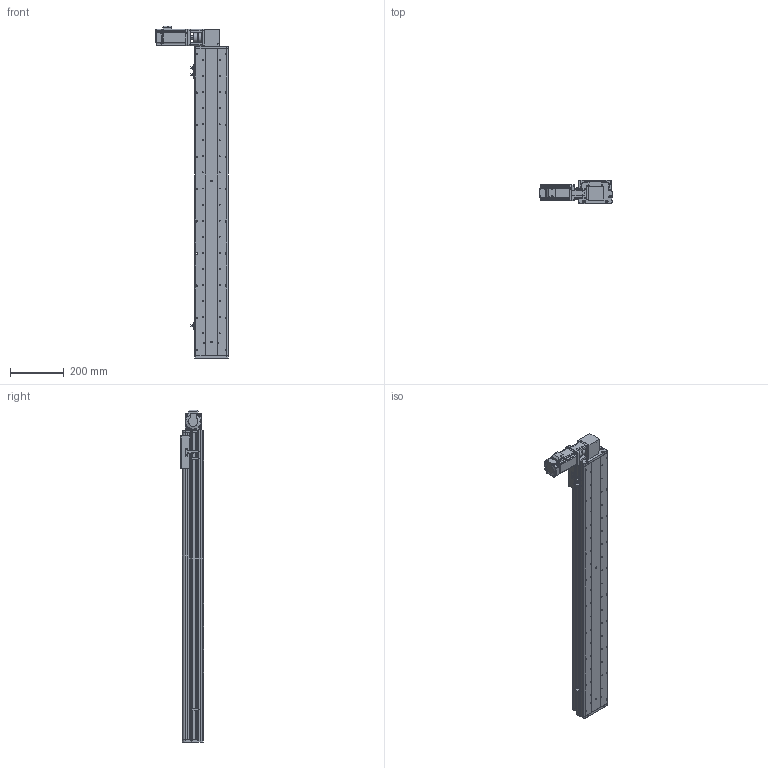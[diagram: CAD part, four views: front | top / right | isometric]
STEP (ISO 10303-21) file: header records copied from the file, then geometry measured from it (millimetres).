
FILE_DESCRIPTION (( 'STEP AP214' ), '1' );
FILE_NAME ('KSD125B-S950-MRT-CM.STEP', '2017-08-07T07:34:12', ( '微软用户' ), ( '微软中国' ), 'SwSTEP 2.0', 'SolidWorks 2014', '' );
FILE_SCHEMA (( 'AUTOMOTIVE_DESIGN' ));
Length unit declared in the file: millimetre
Products named in the file (16): 100宽马达安装板同步带右; 前端板-125宽模组同步带; 125模组同步带-尾端板1; KSD125模组同步带-滑动座1; KSD125B-S950-MRT-CM; KSD125模组950行程同步带-防尘盖; 125模组950行程同步带-底板; MHMD042G1CA_2_03; KSD125模组同步带-防撞垫2; CS-34X32-10X14; 100遵鎮湛假蚾啣1 ; 覜茼え68遵圉猾敕; U倰嫖萇假蚾璃; U倰嫖萇EEㄜSX672; KSD125模组同步带-防撞垫1; 100宽安装板同步带带电机座400W,86
Assembly tree (19 placements, depth 2):
  KSD125B-S950-MRT-CM
    KSD125模组同步带-滑动座1
    125模组同步带-尾端板1
    前端板-125宽模组同步带
    100宽马达安装板同步带右
    100宽安装板同步带带电机座400W,86
    KSD125模组同步带-防撞垫1
    U倰嫖萇EEㄜSX672  x3
    U倰嫖萇假蚾璃  x3
    覜茼え68遵圉猾敕
    100遵鎮湛假蚾啣1 
    CS-34X32-10X14
    KSD125模组同步带-防撞垫2
    MHMD042G1CA_2_03
    125模组950行程同步带-底板
    KSD125模组950行程同步带-防尘盖
Bounding box: 269 x 86 x 1239 mm (x, y, z)
Volume: 3775745.5 mm3; surface area: 1246011.5 mm2
Topology: 18 solids, 21 shells, 1710 faces, 4906 edges, 3236 vertices
Faces by surface type: cylinder 901, plane 706, cone 81, bspline 22
Entity records: 60234 total; most frequent: CARTESIAN_POINT 12176, DIRECTION 8821, ORIENTED_EDGE 8332, EDGE_CURVE 4244, AXIS2_PLACEMENT_3D 3285, VERTEX_POINT 2828, VECTOR 2251, LINE 2251
